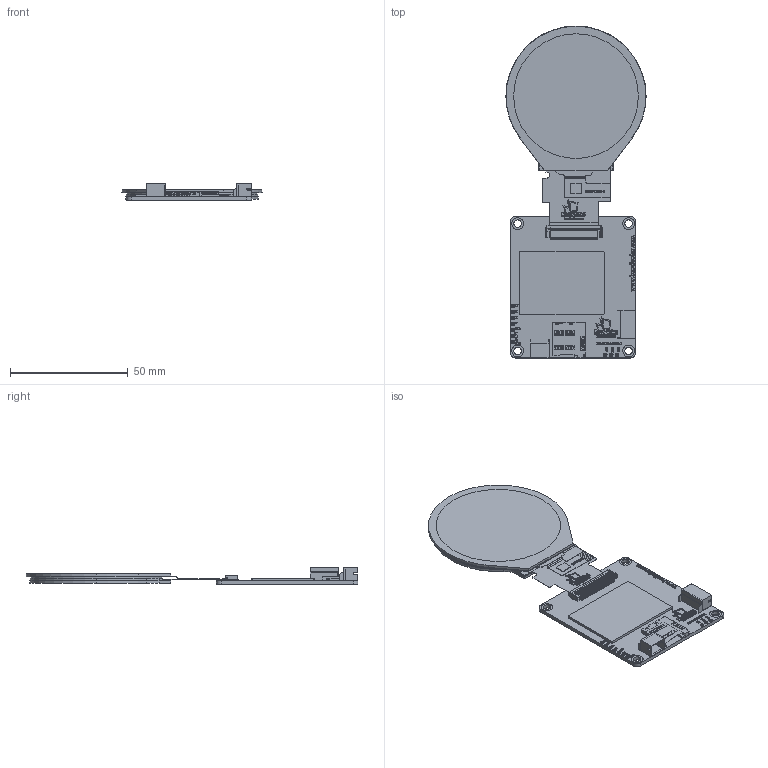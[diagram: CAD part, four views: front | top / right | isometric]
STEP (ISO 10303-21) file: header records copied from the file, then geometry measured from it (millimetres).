
FILE_DESCRIPTION (( 'STEP AP214' ), '1' );
FILE_NAME ('ER-TFT021-1-2985.STEP', '2024-07-11T02:40:23', ( '微软用户' ), ( '微软中国' ), 'SwSTEP 2.0', 'SolidWorks 2023', '' );
FILE_SCHEMA (( 'AUTOMOTIVE_DESIGN' ));
Length unit declared in the file: millimetre
Products named in the file (3): ER-TFT021-1-2985; ER-TFT021-1; ER-PCBA5982-1
Assembly tree (2 placements, depth 2):
  ER-TFT021-1-2985
    ER-PCBA5982-1
    ER-TFT021-1
Bounding box: 59.46 x 140.76 x 7.2 mm (x, y, z)
Volume: 17739.9 mm3; surface area: 23888.6 mm2
Topology: 158 solids, 158 shells, 5144 faces, 14885 edges, 9795 vertices
Faces by surface type: plane 3564, bspline 1077, cylinder 503
Entity records: 249950 total; most frequent: CARTESIAN_POINT 77280, ORIENTED_EDGE 29770, DIRECTION 21747, EDGE_CURVE 14885, VECTOR 11655, LINE 11655, VERTEX_POINT 9795, EDGE_LOOP 5450
